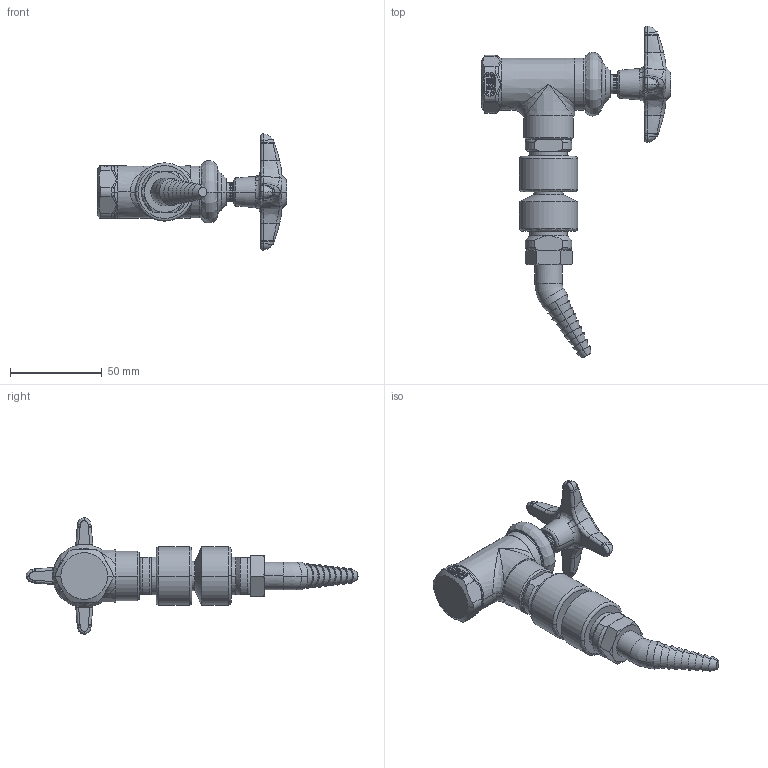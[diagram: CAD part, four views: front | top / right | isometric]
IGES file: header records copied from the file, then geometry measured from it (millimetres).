
Start section:  PTC IGES file: LWV2-C52.igs
Global section: file name: LWV2-C52.igs; native system: Creo Parametric by PTC Inc.; preprocessor: 2014500; author: usch_engrender; organization: Unknown; date: 20150903.150909; units: inch
Bounding box: 102.96 x 180.84 x 63.42 mm (x, y, z)
Volume: 116146.9 mm3; surface area: 26810.1 mm2
Topology: 1 solids, 3 shells, 511 faces, 1177 edges, 694 vertices
Faces by surface type: bspline 281, revolution 230
